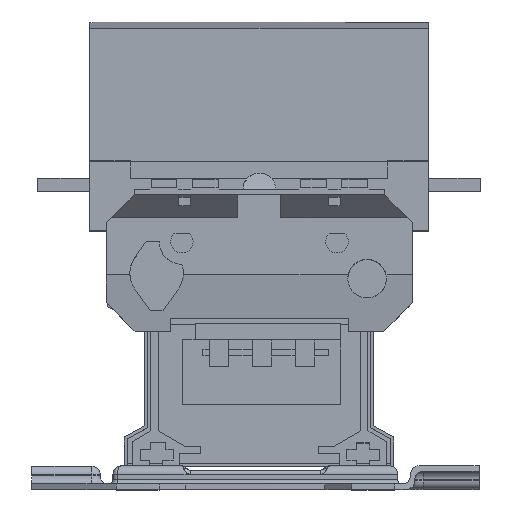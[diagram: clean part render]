
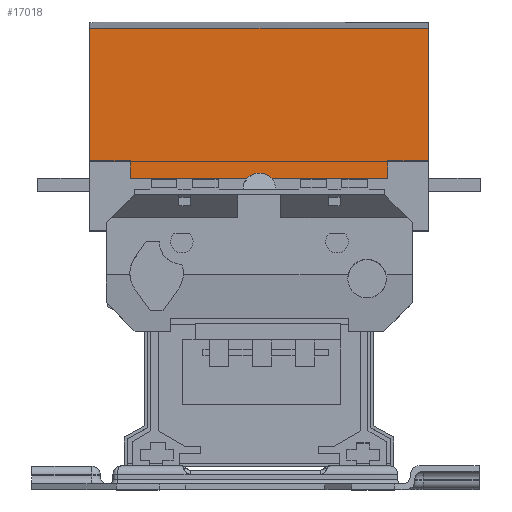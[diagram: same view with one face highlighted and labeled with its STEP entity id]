
A CAD part, top view. The second image highlights one B-rep face of the part: STEP entity #17018.
In plain terms, the highlighted planar face has unit normal (0, 0, 1).
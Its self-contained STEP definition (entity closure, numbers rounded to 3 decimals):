
#894 = CARTESIAN_POINT ( 'NONE',  ( 61.982, 122.555, 76.22 ) ) ;
#1239 = DIRECTION ( 'NONE',  ( -1., 0., 0. ) ) ;
#1454 = ORIENTED_EDGE ( 'NONE', *, *, #2655, .T. ) ;
#1455 = VERTEX_POINT ( 'NONE', #26245 ) ;
#1615 = EDGE_CURVE ( 'NONE', #1455, #17579, #1975, .T. ) ;
#1958 = CARTESIAN_POINT ( 'NONE',  ( -96.018, 60.555, 76.22 ) ) ;
#1975 = LINE ( 'NONE', #7267, #24216 ) ;
#2083 = EDGE_CURVE ( 'NONE', #5804, #12945, #20518, .T. ) ;
#2655 = EDGE_CURVE ( 'NONE', #18915, #27849, #12727, .T. ) ;
#2775 = EDGE_CURVE ( 'NONE', #5044, #5804, #9631, .T. ) ;
#2995 = DIRECTION ( 'NONE',  ( -1., 0., 0. ) ) ;
#3201 = CARTESIAN_POINT ( 'NONE',  ( -96.018, 60.555, 76.22 ) ) ;
#4568 = EDGE_CURVE ( 'NONE', #12945, #1455, #4812, .T. ) ;
#4812 = LINE ( 'NONE', #19150, #14960 ) ;
#5044 = VERTEX_POINT ( 'NONE', #894 ) ;
#5229 = CARTESIAN_POINT ( 'NONE',  ( 61.982, 52.555, 76.22 ) ) ;
#5804 = VERTEX_POINT ( 'NONE', #26807 ) ;
#6124 = AXIS2_PLACEMENT_3D ( 'NONE', #6154, #16925, #23336 ) ;
#6134 = CARTESIAN_POINT ( 'NONE',  ( -77.235, 60.555, 76.22 ) ) ;
#6154 = CARTESIAN_POINT ( 'NONE',  ( 61.982, 52.555, 76.22 ) ) ;
#6220 = DIRECTION ( 'NONE',  ( 0., -1., 0. ) ) ;
#6643 = VECTOR ( 'NONE', #2995, 1000. ) ;
#7001 = DIRECTION ( 'NONE',  ( 0., -1., 0. ) ) ;
#7267 = CARTESIAN_POINT ( 'NONE',  ( 61.982, 52.555, 76.22 ) ) ;
#7457 = VERTEX_POINT ( 'NONE', #18183 ) ;
#7805 = ORIENTED_EDGE ( 'NONE', *, *, #2775, .F. ) ;
#8029 = PLANE ( 'NONE',  #6124 ) ;
#8145 = LINE ( 'NONE', #9362, #26729 ) ;
#8255 = FACE_OUTER_BOUND ( 'NONE', #23362, .T. ) ;
#8814 = ORIENTED_EDGE ( 'NONE', *, *, #2083, .F. ) ;
#9012 = ORIENTED_EDGE ( 'NONE', *, *, #4568, .F. ) ;
#9362 = CARTESIAN_POINT ( 'NONE',  ( 61.982, 122.555, 76.22 ) ) ;
#9631 = LINE ( 'NONE', #5229, #25519 ) ;
#11464 = ORIENTED_EDGE ( 'NONE', *, *, #23684, .F. ) ;
#12368 = VECTOR ( 'NONE', #6220, 1000. ) ;
#12700 = ORIENTED_EDGE ( 'NONE', *, *, #1615, .F. ) ;
#12727 = LINE ( 'NONE', #19752, #22860 ) ;
#12945 = VERTEX_POINT ( 'NONE', #15580 ) ;
#13303 = LINE ( 'NONE', #3201, #24110 ) ;
#14960 = VECTOR ( 'NONE', #21349, 1000. ) ;
#15580 = CARTESIAN_POINT ( 'NONE',  ( 43.199, 60.555, 76.22 ) ) ;
#15948 = CARTESIAN_POINT ( 'NONE',  ( 61.982, 60.555, 76.22 ) ) ;
#16498 = EDGE_CURVE ( 'NONE', #7457, #17579, #26863, .T. ) ;
#16925 = DIRECTION ( 'NONE',  ( 0., 0., -1. ) ) ;
#17018 = ADVANCED_FACE ( 'NONE', ( #8255 ), #8029, .F. ) ;
#17518 = ORIENTED_EDGE ( 'NONE', *, *, #16498, .T. ) ;
#17579 = VERTEX_POINT ( 'NONE', #25088 ) ;
#18183 = CARTESIAN_POINT ( 'NONE',  ( -77.235, 60.555, 76.22 ) ) ;
#18915 = VERTEX_POINT ( 'NONE', #25590 ) ;
#19150 = CARTESIAN_POINT ( 'NONE',  ( 43.199, 60.555, 76.22 ) ) ;
#19752 = CARTESIAN_POINT ( 'NONE',  ( -96.018, 52.555, 76.22 ) ) ;
#20331 = DIRECTION ( 'NONE',  ( 0., -1., 0. ) ) ;
#20518 = LINE ( 'NONE', #15948, #6643 ) ;
#21349 = DIRECTION ( 'NONE',  ( 0., -1., 0. ) ) ;
#22341 = DIRECTION ( 'NONE',  ( -1., 0., 0. ) ) ;
#22596 = DIRECTION ( 'NONE',  ( -1., 0., 0. ) ) ;
#22860 = VECTOR ( 'NONE', #7001, 1000. ) ;
#23336 = DIRECTION ( 'NONE',  ( 0., 1., 0. ) ) ;
#23362 = EDGE_LOOP ( 'NONE', ( #12700, #9012, #8814, #7805, #23625, #1454, #11464, #17518 ) ) ;
#23625 = ORIENTED_EDGE ( 'NONE', *, *, #26162, .T. ) ;
#23684 = EDGE_CURVE ( 'NONE', #7457, #27849, #13303, .T. ) ;
#24110 = VECTOR ( 'NONE', #1239, 1000. ) ;
#24216 = VECTOR ( 'NONE', #22596, 1000. ) ;
#25088 = CARTESIAN_POINT ( 'NONE',  ( -77.235, 52.555, 76.22 ) ) ;
#25519 = VECTOR ( 'NONE', #20331, 1000. ) ;
#25590 = CARTESIAN_POINT ( 'NONE',  ( -96.018, 122.555, 76.22 ) ) ;
#26162 = EDGE_CURVE ( 'NONE', #5044, #18915, #8145, .T. ) ;
#26245 = CARTESIAN_POINT ( 'NONE',  ( 43.199, 52.555, 76.22 ) ) ;
#26729 = VECTOR ( 'NONE', #22341, 1000. ) ;
#26807 = CARTESIAN_POINT ( 'NONE',  ( 61.982, 60.555, 76.22 ) ) ;
#26863 = LINE ( 'NONE', #6134, #12368 ) ;
#27849 = VERTEX_POINT ( 'NONE', #1958 ) ;
